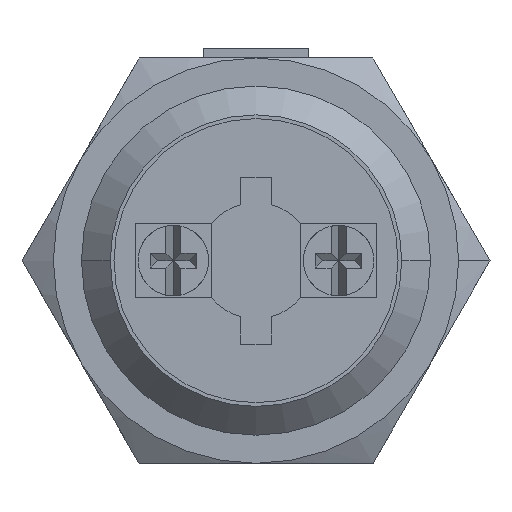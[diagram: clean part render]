
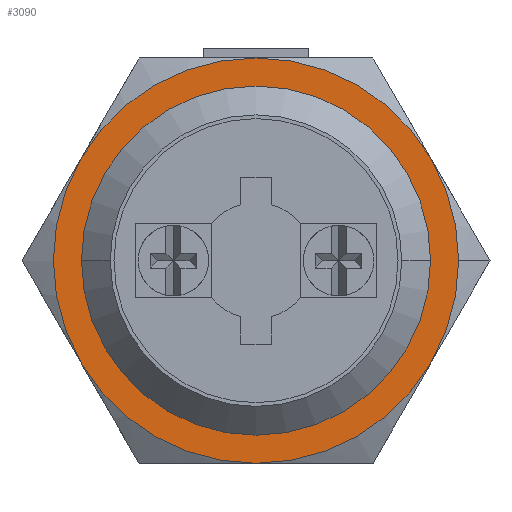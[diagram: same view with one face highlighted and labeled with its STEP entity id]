
A CAD part, front view. The second image highlights one B-rep face of the part: STEP entity #3090.
In plain terms, the highlighted planar face has unit normal (0, -1, 0).
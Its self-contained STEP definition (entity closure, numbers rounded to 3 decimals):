
#374 = PLANE ( 'NONE',  #5483 ) ;
#375 = CARTESIAN_POINT ( 'NONE',  ( -9.4, 8.55, 0. ) ) ;
#376 = DIRECTION ( 'NONE',  ( 0., -1., 0. ) ) ;
#377 = DIRECTION ( 'NONE',  ( 1., 0., 0. ) ) ;
#421 = CARTESIAN_POINT ( 'NONE',  ( 0., 8.55, 0. ) ) ;
#422 = DIRECTION ( 'NONE',  ( 0., -1., 0. ) ) ;
#423 = DIRECTION ( 'NONE',  ( 1., 0., 0. ) ) ;
#768 = EDGE_LOOP ( 'NONE', ( #1144, #1145 ) ) ;
#769 = EDGE_LOOP ( 'NONE', ( #1143, #1142, #1141, #1146, #1093, #1116, #1104 ) ) ;
#1093 = ORIENTED_EDGE ( 'NONE', *, *, #2643, .T. ) ;
#1104 = ORIENTED_EDGE ( 'NONE', *, *, #2638, .T. ) ;
#1116 = ORIENTED_EDGE ( 'NONE', *, *, #2639, .T. ) ;
#1141 = ORIENTED_EDGE ( 'NONE', *, *, #2773, .T. ) ;
#1142 = ORIENTED_EDGE ( 'NONE', *, *, #2904, .T. ) ;
#1143 = ORIENTED_EDGE ( 'NONE', *, *, #2774, .T. ) ;
#1144 = ORIENTED_EDGE ( 'NONE', *, *, #2897, .T. ) ;
#1145 = ORIENTED_EDGE ( 'NONE', *, *, #2772, .T. ) ;
#1146 = ORIENTED_EDGE ( 'NONE', *, *, #3103, .T. ) ;
#1994 = VERTEX_POINT ( 'NONE', #5971 ) ;
#2025 = VERTEX_POINT ( 'NONE', #6001 ) ;
#2027 = VERTEX_POINT ( 'NONE', #6002 ) ;
#2030 = VERTEX_POINT ( 'NONE', #6005 ) ;
#2084 = VERTEX_POINT ( 'NONE', #6050 ) ;
#2121 = VERTEX_POINT ( 'NONE', #6083 ) ;
#2161 = VERTEX_POINT ( 'NONE', #6120 ) ;
#2169 = VERTEX_POINT ( 'NONE', #6127 ) ;
#2172 = VERTEX_POINT ( 'NONE', #6130 ) ;
#2525 = CIRCLE ( 'NONE', #5835, 10.912 ) ;
#2528 = CIRCLE ( 'NONE', #5849, 9.4 ) ;
#2541 = CIRCLE ( 'NONE', #5500, 10.912 ) ;
#2542 = CIRCLE ( 'NONE', #5496, 10.912 ) ;
#2543 = CIRCLE ( 'NONE', #5513, 9.4 ) ;
#2546 = CIRCLE ( 'NONE', #5831, 10.912 ) ;
#2549 = CIRCLE ( 'NONE', #5561, 10.912 ) ;
#2552 = CIRCLE ( 'NONE', #5823, 10.912 ) ;
#2638 = EDGE_CURVE ( 'NONE', #2161, #2084, #2552, .T. ) ;
#2639 = EDGE_CURVE ( 'NONE', #2172, #2161, #2549, .T. ) ;
#2643 = EDGE_CURVE ( 'NONE', #2169, #2172, #2546, .T. ) ;
#2772 = EDGE_CURVE ( 'NONE', #2027, #2030, #2543, .T. ) ;
#2773 = EDGE_CURVE ( 'NONE', #2025, #2121, #2542, .T. ) ;
#2774 = EDGE_CURVE ( 'NONE', #2084, #1994, #2541, .T. ) ;
#2897 = EDGE_CURVE ( 'NONE', #2030, #2027, #2528, .T. ) ;
#2904 = EDGE_CURVE ( 'NONE', #1994, #2025, #2525, .T. ) ;
#3090 = ADVANCED_FACE ( 'NONE', ( #5581, #5579 ), #374, .T. ) ;
#3103 = EDGE_CURVE ( 'NONE', #2121, #2169, #4045, .T. ) ;
#3260 = CARTESIAN_POINT ( 'NONE',  ( 0., 8.55, 0. ) ) ;
#3261 = DIRECTION ( 'NONE',  ( 0., -1., 0. ) ) ;
#3262 = DIRECTION ( 'NONE',  ( 1., 0., 0. ) ) ;
#3624 = CARTESIAN_POINT ( 'NONE',  ( 0., 8.55, 0. ) ) ;
#3682 = DIRECTION ( 'NONE',  ( 0., 1., 0. ) ) ;
#3683 = DIRECTION ( 'NONE',  ( -1., 0., 0. ) ) ;
#3684 = CARTESIAN_POINT ( 'NONE',  ( 0., 8.55, 0. ) ) ;
#3685 = DIRECTION ( 'NONE',  ( 0., -1., 0. ) ) ;
#3686 = DIRECTION ( 'NONE',  ( 1., 0., 0. ) ) ;
#3687 = CARTESIAN_POINT ( 'NONE',  ( 0., 8.55, 0. ) ) ;
#3688 = DIRECTION ( 'NONE',  ( 0., -1., 0. ) ) ;
#3689 = DIRECTION ( 'NONE',  ( 1., 0., 0. ) ) ;
#4045 = CIRCLE ( 'NONE', #5273, 10.912 ) ;
#4204 = CARTESIAN_POINT ( 'NONE',  ( 0., 8.55, 0. ) ) ;
#4205 = DIRECTION ( 'NONE',  ( 0., 1., 0. ) ) ;
#4206 = DIRECTION ( 'NONE',  ( -1., 0., 0. ) ) ;
#4219 = CARTESIAN_POINT ( 'NONE',  ( 0., 8.55, 0. ) ) ;
#4226 = DIRECTION ( 'NONE',  ( 0., -1., 0. ) ) ;
#4227 = DIRECTION ( 'NONE',  ( 1., 0., 0. ) ) ;
#5273 = AXIS2_PLACEMENT_3D ( 'NONE', #421, #422, #423 ) ;
#5483 = AXIS2_PLACEMENT_3D ( 'NONE', #375, #376, #377 ) ;
#5496 = AXIS2_PLACEMENT_3D ( 'NONE', #3684, #3685, #3686 ) ;
#5500 = AXIS2_PLACEMENT_3D ( 'NONE', #3687, #3688, #3689 ) ;
#5513 = AXIS2_PLACEMENT_3D ( 'NONE', #3624, #3682, #3683 ) ;
#5561 = AXIS2_PLACEMENT_3D ( 'NONE', #6431, #6432, #6433 ) ;
#5579 = FACE_OUTER_BOUND ( 'NONE', #769, .T. ) ;
#5581 = FACE_BOUND ( 'NONE', #768, .T. ) ;
#5823 = AXIS2_PLACEMENT_3D ( 'NONE', #6425, #6429, #6430 ) ;
#5831 = AXIS2_PLACEMENT_3D ( 'NONE', #3260, #3261, #3262 ) ;
#5835 = AXIS2_PLACEMENT_3D ( 'NONE', #4219, #4226, #4227 ) ;
#5849 = AXIS2_PLACEMENT_3D ( 'NONE', #4204, #4205, #4206 ) ;
#5971 = CARTESIAN_POINT ( 'NONE',  ( 10.912, 8.55, 0. ) ) ;
#6001 = CARTESIAN_POINT ( 'NONE',  ( 9.45, 8.55, 5.456 ) ) ;
#6002 = CARTESIAN_POINT ( 'NONE',  ( 9.4, 8.55, 0. ) ) ;
#6005 = CARTESIAN_POINT ( 'NONE',  ( -9.4, 8.55, 0. ) ) ;
#6050 = CARTESIAN_POINT ( 'NONE',  ( 9.45, 8.55, -5.456 ) ) ;
#6083 = CARTESIAN_POINT ( 'NONE',  ( 0., 8.55, 10.912 ) ) ;
#6120 = CARTESIAN_POINT ( 'NONE',  ( 0., 8.55, -10.912 ) ) ;
#6127 = CARTESIAN_POINT ( 'NONE',  ( -9.45, 8.55, 5.456 ) ) ;
#6130 = CARTESIAN_POINT ( 'NONE',  ( -9.45, 8.55, -5.456 ) ) ;
#6425 = CARTESIAN_POINT ( 'NONE',  ( 0., 8.55, 0. ) ) ;
#6429 = DIRECTION ( 'NONE',  ( 0., -1., 0. ) ) ;
#6430 = DIRECTION ( 'NONE',  ( 1., 0., 0. ) ) ;
#6431 = CARTESIAN_POINT ( 'NONE',  ( 0., 8.55, 0. ) ) ;
#6432 = DIRECTION ( 'NONE',  ( 0., -1., 0. ) ) ;
#6433 = DIRECTION ( 'NONE',  ( 1., 0., 0. ) ) ;
